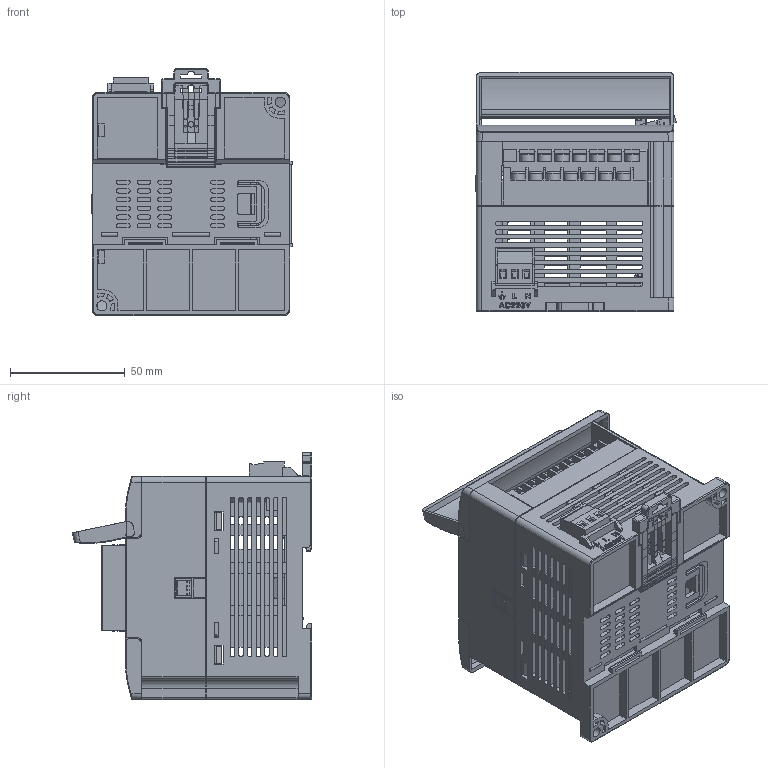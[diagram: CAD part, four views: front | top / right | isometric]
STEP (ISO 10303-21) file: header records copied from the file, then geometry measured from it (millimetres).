
FILE_DESCRIPTION((''),'2;1');
FILE_NAME('PLC-20IO-M2-ASM_ASM_ASM','2022-06-21T',('samkoon'),(''),'PRO/ENGINEER BY PARAMETRIC TECHNOLOGY CORPORATION, 2015240','PRO/ENGINEER BY PARAMETRIC TECHNOLOGY CORPORATION, 2015240','');
FILE_SCHEMA(('AUTOMOTIVE_DESIGN { 1 0 10303 214 1 1 1 1 }'));
Products named in the file (2): PLC-20IO-M2-ASM_ASM_ASM_1_ASM; PLC-20IO-M2-ASM_ASM_ASM
Assembly tree (1 placements, depth 2):
  PLC-20IO-M2-ASM_ASM_ASM
    PLC-20IO-M2-ASM_ASM_ASM_1_ASM
Bounding box: 87.29 x 104.19 x 107.42 mm (x, y, z)
Surface area: 367429.4 mm2 (no closed solid volume)
Topology: 0 solids, 89 shells, 10086 faces, 27985 edges, 18389 vertices
Faces by surface type: plane 8161, cylinder 1369, torus 192, extrusion 169, cone 111, bspline 84
Entity records: 387489 total; most frequent: CARTESIAN_POINT 66349, ORIENTED_EDGE 55966, DIRECTION 49952, EDGE_CURVE 27983, VECTOR 23984, LINE 23815, VERTEX_POINT 18389, AXIS2_PLACEMENT_3D 12984
